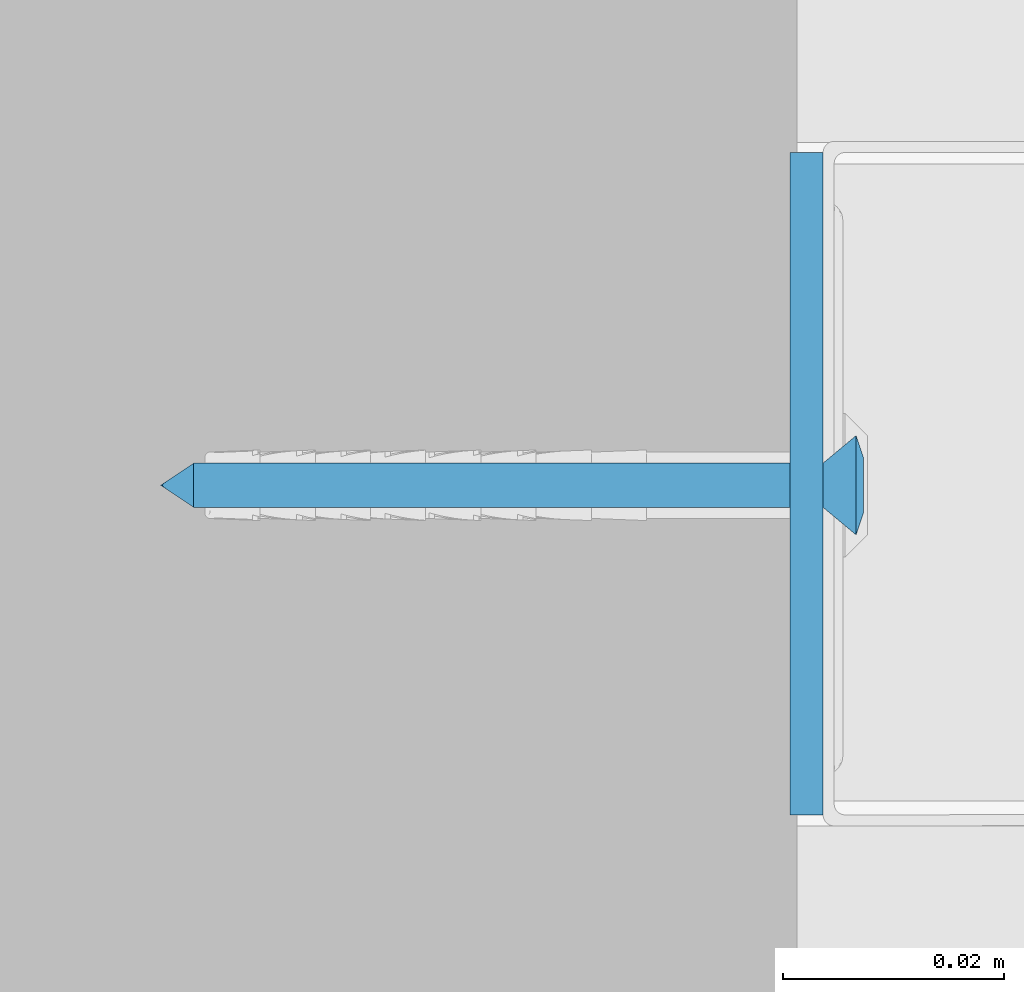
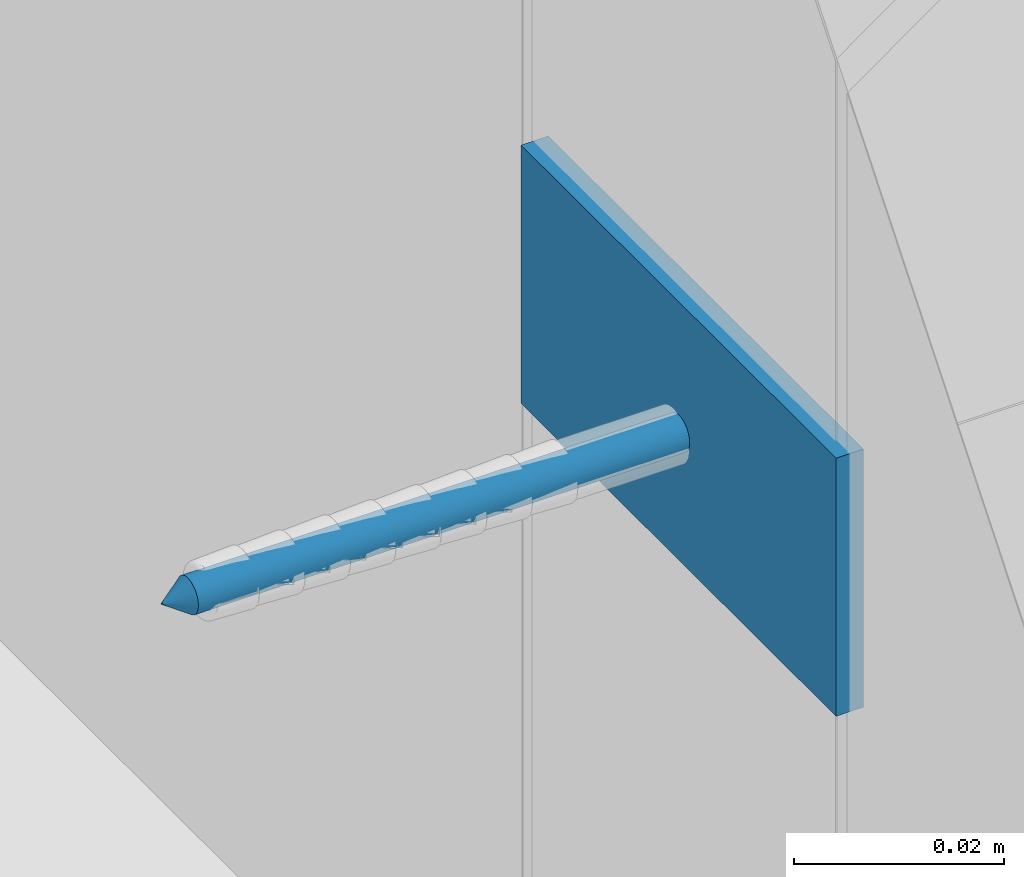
# One storey, part 56 of 62: 2 walls.
"""IFC2X3 building model written with IfcOpenShell, lengths in millimetres."""

import ifcopenshell
import ifcopenshell.guid

model = None  # the IFC model being written
_history = None  # IfcOwnerHistory: only IFC2X3 demands one
_inside = {}  # id of a spatial element -> (the spatial element, [elements in it])
_under = {}  # id of a project, library or spatial element -> (it, [spatial elements below it])
_declared = {}  # id of a project -> (the project, [libraries it declares])
_typed = {}  # id of a type object -> (the type object, [elements of that type])
_made_of = {}  # id of a material, layer set ... -> (it, [elements and type objects made of it])


def new_model(schema):
    """Start an empty IFC model of exactly this schema.

    Asked for "IFC4X3", IfcOpenShell would pick the latest addendum, in which some entities
    have other attributes; the version numbers below select the first issue.
    IFC2X3 requires an IfcOwnerHistory on every rooted entity: one is made here for all.
    """
    global model, _history
    if schema == "IFC4X3":
        model = ifcopenshell.file(schema_version=(4, 3, 0, 0))
    else:
        model = ifcopenshell.file(schema=schema)
    _inside.clear()
    _under.clear()
    _declared.clear()
    _typed.clear()
    _made_of.clear()
    _history = None
    if model.schema == "IFC2X3":
        org = make("IfcOrganization", Name="unknown")
        user = make(
            "IfcPersonAndOrganization",
            ThePerson=make("IfcPerson", FamilyName="unknown"),
            TheOrganization=org,
        )
        app = make(
            "IfcApplication",
            ApplicationDeveloper=org,
            Version="unknown",
            ApplicationFullName="unknown",
            ApplicationIdentifier="unknown",
        )
        _history = make(
            "IfcOwnerHistory",
            OwningUser=user,
            OwningApplication=app,
            ChangeAction="ADDED",
            CreationDate=0,
        )
    return model


def make(cls, **values):
    """One entity of the class cls with the attributes given. An attribute that is None is left unset."""
    return model.create_entity(
        cls, **{name: value for name, value in values.items() if value is not None}
    )


def rooted(cls, **values):
    """An entity with a GlobalId (a new one), such as an element, a storey or a relation."""
    return make(cls, GlobalId=ifcopenshell.guid.new(), OwnerHistory=_history, **values)


def si_unit(unit_type, name, prefix=None):
    """IfcSIUnit, for example si_unit("LENGTHUNIT", "METRE", prefix="MILLI")."""
    return make("IfcSIUnit", UnitType=unit_type, Prefix=prefix, Name=name)


def assignment(units):
    """IfcUnitAssignment: the units of a project."""
    return None if units is None else make("IfcUnitAssignment", Units=units)


def point(xyz):
    """IfcCartesianPoint."""
    return None if xyz is None else make("IfcCartesianPoint", Coordinates=xyz)


def direction(xyz):
    """IfcDirection."""
    return None if xyz is None else make("IfcDirection", DirectionRatios=xyz)


def frame(location, z_axis=None, x_axis=None):
    """IfcAxis2Placement3D, a coordinate frame: its origin and axes. An axis left out is left unset."""
    return make(
        "IfcAxis2Placement3D",
        Location=point(location),
        Axis=direction(z_axis),
        RefDirection=direction(x_axis),
    )


def origin_with_axes():
    """The frame at (0, 0, 0) with the z axis (0, 0, 1) and the x axis (1, 0, 0) written out."""
    return frame((0.0, 0.0, 0.0), z_axis=(0.0, 0.0, 1.0), x_axis=(1.0, 0.0, 0.0))


def place(relative_to, where):
    """IfcLocalPlacement: puts the frame where relative to a parent placement (None: the world)."""
    return make(
        "IfcLocalPlacement", PlacementRelTo=relative_to, RelativePlacement=where
    )


def context(
    kind, dimensions, precision=None, world=None, true_north=None, identifier=None
):
    """IfcGeometricRepresentationContext, for example the 3D "Model" context."""
    return make(
        "IfcGeometricRepresentationContext",
        ContextIdentifier=identifier,
        ContextType=kind,
        CoordinateSpaceDimension=dimensions,
        Precision=precision,
        WorldCoordinateSystem=world,
        TrueNorth=true_north,
    )


def subcontext(parent, identifier, kind, view, scale=None):
    """IfcGeometricRepresentationSubContext, for example "Body" below "Model"."""
    return make(
        "IfcGeometricRepresentationSubContext",
        ContextIdentifier=identifier,
        ContextType=kind,
        ParentContext=parent,
        TargetScale=scale,
        TargetView=view,
    )


def project(units=None, contexts=None):
    """IfcProject with its units and contexts."""
    return rooted(
        "IfcProject",
        Name="project",
        RepresentationContexts=contexts,
        UnitsInContext=assignment(units),
    )


def spatial(cls, under=None, at=None, **own):
    """A site, building, storey or space (cls), placed at a placement, below another one or the project."""
    s = rooted(cls, ObjectPlacement=at, **own)
    if under is not None:
        _under.setdefault(under.id(), (under, []))[1].append(s)
    return s


def faces_of(points, faces, orient=None, outer=None):
    """IfcFace entities. A face is a list of loops; a loop is a list of indices into points, from 0.

    orient and outer hold one flag for each loop. By default every Orientation is true, the
    first loop of a face is its IfcFaceOuterBound and the others are IfcFaceBound.
    """
    made = []
    for i, loops in enumerate(faces):
        bounds = []
        for j, loop in enumerate(loops):
            is_outer = j == 0 if outer is None else outer[i][j]
            bounds.append(
                make(
                    "IfcFaceOuterBound" if is_outer else "IfcFaceBound",
                    Bound=make("IfcPolyLoop", Polygon=[points[k] for k in loop]),
                    Orientation=True if orient is None else orient[i][j],
                )
            )
        made.append(make("IfcFace", Bounds=bounds))
    return made


def faceted_brep(points, faces, orient=None, outer=None, voids=None):
    """IfcFacetedBrep: a solid bounded by flat faces; with voids (closed shells), ...WithVoids."""
    shared = [point(p) for p in points]
    hull = make("IfcClosedShell", CfsFaces=faces_of(shared, faces, orient, outer))
    if voids is None:
        return make("IfcFacetedBrep", Outer=hull)
    return make(
        "IfcFacetedBrepWithVoids",
        Outer=hull,
        Voids=[
            make(cls, CfsFaces=faces_of(shared, fs, o, b)) for cls, fs, o, b in voids
        ],
    )


def shape(context_of_items, identifier, shape_type, items):
    """IfcShapeRepresentation: the items that make up one representation, for example the "Body"."""
    return make(
        "IfcShapeRepresentation",
        ContextOfItems=context_of_items,
        RepresentationIdentifier=identifier,
        RepresentationType=shape_type,
        Items=items,
    )


def material(Name=None, Category=None):
    """IfcMaterial."""
    return make("IfcMaterial", Name=Name, Category=Category)


def made_of(thing, what):
    """Note that an element or type object is made of a material, layer set ...; save() writes the relation."""
    if what is not None:
        _made_of.setdefault(what.id(), (what, []))[1].append(thing)
    return thing


def type_object(cls, material=None, **own):
    """A type object (cls), such as IfcWallType, which elements share."""
    return made_of(rooted(cls, **own), material)


def element(
    cls,
    number,
    at=None,
    inside=None,
    cuts=None,
    type_object=None,
    material=None,
    context=None,
    identifier="Body",
    shape_type=None,
    held_by="IfcProductDefinitionShape",
    body=None,
    shapes=None,
    **own,
):
    """One element of the class cls, such as IfcWall. Its Tag is "e" and its number.

    at: its placement. inside: the storey or other place that contains it. cuts: it is an
    opening in that element (IfcRelVoidsElement). A single representation is given by context,
    identifier, shape_type and body (its items); several are given by shapes. held_by: the class
    of the entity that holds the representations. save() writes the other relations.
    """
    e = rooted(cls, Tag="e%d" % number, ObjectPlacement=at, **own)
    if body is not None:
        shapes = [shape(context, identifier, shape_type, body)]
    if shapes is not None:
        e.Representation = make(held_by, Representations=shapes)
    if inside is not None:
        _inside.setdefault(inside.id(), (inside, []))[1].append(e)
    if cuts is not None:
        rooted(
            "IfcRelVoidsElement", RelatingBuildingElement=cuts, RelatedOpeningElement=e
        )
    if type_object is not None:
        _typed.setdefault(type_object.id(), (type_object, []))[1].append(e)
    return made_of(e, material)


def aggregate(whole, parts):
    """IfcRelAggregates: a whole, such as a stair, and the parts it consists of."""
    return rooted("IfcRelAggregates", RelatingObject=whole, RelatedObjects=parts)


def save(model, path):
    """Write the relations noted so far, then the file.

    IfcRelAggregates (storeys below a building ...), IfcRelContainedInSpatialStructure (elements
    in a storey), IfcRelDefinesByType, IfcRelAssociatesMaterial and IfcRelDeclares: one each for
    every whole, place, type object, material and project.
    """
    for whole, parts in _under.values():
        aggregate(whole, parts)
    for where, things in _inside.values():
        rooted(
            "IfcRelContainedInSpatialStructure",
            RelatedElements=things,
            RelatingStructure=where,
        )
    for kind, things in _typed.values():
        rooted("IfcRelDefinesByType", RelatedObjects=things, RelatingType=kind)
    for what, things in _made_of.values():
        rooted("IfcRelAssociatesMaterial", RelatedObjects=things, RelatingMaterial=what)
    for by, libraries in _declared.values():
        rooted("IfcRelDeclares", RelatingContext=by, RelatedDefinitions=libraries)
    model.write(path)


model = new_model("IFC2X3")

# Units and contexts
model_context = context("Model", 3, world=origin_with_axes())
body_context = subcontext(model_context, "Body", "Model", "MODEL_VIEW")
ifc_project = project(units=[si_unit("LENGTHUNIT", "METRE", prefix="MILLI"), si_unit("AREAUNIT", "SQUARE_METRE"), si_unit("VOLUMEUNIT", "CUBIC_METRE")], contexts=[model_context])

# Site, building, storey
site_placement = place(None, frame((2152.14102611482, -2015.0250894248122, 57.61556563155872), z_axis=(0.0, 0.0, 1.0), x_axis=(-1.1102230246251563e-16, 1.0, 0.0)))
site = spatial("IfcSite", under=ifc_project, at=site_placement, Name="Default Site", CompositionType="ELEMENT")
building_placement = place(site_placement, origin_with_axes())
building = spatial("IfcBuilding", under=site, at=building_placement, Name="Default Building", CompositionType="ELEMENT")
storey_placement = place(building_placement, origin_with_axes())
storey = spatial("IfcBuildingStorey", under=building, at=storey_placement, Name="Default Building Storey", CompositionType="ELEMENT", Elevation=57.61556563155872)

# Walls
ifc_material = material(Name="Default")
wall_type_1 = type_object("IfcWallType", Name="Kołek rozporowy min. fi 6#35", PredefinedType="NOTDEFINED")
wall_1_placement = place(storey_placement, frame((6891.176283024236, 2016.3286110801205, 1539.671890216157), z_axis=(-6.858158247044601e-13, -1.0, 7.64238051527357e-14), x_axis=(-1.6476028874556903e-11, 7.642380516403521e-14, 1.0)))
element("IfcWall", 1, at=wall_1_placement, inside=storey, type_object=wall_type_1, material=ifc_material, Name="Kołek rozporowy min. fi 6", context=body_context, shape_type="Brep", body=[
    faceted_brep([(-1438.3141994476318, 3453.2833099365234, -0.46425670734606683), (-1435.8141422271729, 3453.2833099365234, -3.464256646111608), (-1435.7895851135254, 3452.970266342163, -3.464256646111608), (-1438.2587671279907, 3452.579259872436, -0.46425670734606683), (-1435.7162714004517, 3452.6650905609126, -3.464256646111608), (-1438.093900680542, 3451.892614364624, -0.46425670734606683), (-1435.5961084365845, 3452.3751735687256, -3.464256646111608), (-1437.8236532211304, 3451.240301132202, -0.46425670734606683), (-1435.4321956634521, 3452.107667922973, -3.464256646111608), (-1437.4547004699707, 3450.6382942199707, -0.46425670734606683), (-1435.22834777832, 3451.8690109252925, -3.464256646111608), (-1436.9961023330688, 3450.101137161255, -0.46425670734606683), (-1434.9896907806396, 3451.665163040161, -3.464256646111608), (-1436.4591836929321, 3449.642658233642, -0.46425670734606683), (-1434.7221851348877, 3451.501131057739, -3.464256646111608), (-1435.8570575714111, 3449.2735862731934, -0.46425670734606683), (-1434.4321489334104, 3451.381206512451, -3.464256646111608), (-1435.2047443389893, 3449.0034580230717, -0.46425670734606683), (-1434.1269731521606, 3451.307773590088, -3.464256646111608), (-1434.5180988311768, 3448.838710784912, -0.46425670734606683), (-1433.8141679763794, 3451.28321647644, -3.464256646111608), (-1433.8141679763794, 3448.7831592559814, -0.46425670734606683), (-1433.5012435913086, 3451.307773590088, -3.464256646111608), (-1433.110237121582, 3448.838710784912, -0.46425670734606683), (-1433.1960678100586, 3451.381206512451, -3.464256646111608), (-1432.4235916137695, 3449.0034580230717, -0.46425670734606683), (-1432.9061508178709, 3451.501131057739, -3.464256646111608), (-1431.771159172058, 3449.2735862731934, -0.46425670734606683), (-1432.6385259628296, 3451.665163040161, -3.464256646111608), (-1431.1691522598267, 3449.642658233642, -0.46425670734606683), (-1432.3999881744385, 3451.8690109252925, -3.464256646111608), (-1430.6321144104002, 3450.101137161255, -0.46425670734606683), (-1432.1961402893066, 3452.107667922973, -3.464256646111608), (-1430.1735162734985, 3450.6382942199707, -0.46425670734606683), (-1432.0321083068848, 3452.3751735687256, -3.464256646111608), (-1429.8045635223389, 3451.240301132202, -0.46425670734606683), (-1431.9120645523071, 3452.6650905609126, -3.464256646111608), (-1429.5344352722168, 3451.892614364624, -0.46425670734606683), (-1431.8387508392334, 3453.5961151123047, -3.464256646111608), (-1429.369568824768, 3453.9871215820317, -0.46425670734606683), (-1429.314136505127, 3453.2833099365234, -0.46425670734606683), (-1431.814193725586, 3453.2833099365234, -3.464256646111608), (-1429.369568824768, 3452.579259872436, -0.46425670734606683), (-1431.8387508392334, 3452.970266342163, -3.464256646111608), (-1431.9120645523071, 3453.9012908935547, -3.464256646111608), (-1429.5344352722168, 3454.6737670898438, -0.46425670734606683), (-1432.0321083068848, 3454.191207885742, -3.464256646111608), (-1429.8045635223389, 3455.3260803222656, -0.46425670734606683), (-1432.1961402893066, 3454.458713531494, -3.464256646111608), (-1430.1735162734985, 3455.9283256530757, -0.46425670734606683), (-1432.3999881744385, 3454.6973705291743, -3.464256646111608), (-1430.6321144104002, 3456.465244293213, -0.46425670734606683), (-1432.6385259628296, 3454.9012184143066, -3.464256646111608), (-1431.1691522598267, 3456.923723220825, -0.46425670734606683), (-1432.9061508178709, 3455.065250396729, -3.464256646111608), (-1431.771159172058, 3457.2927951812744, -0.46425670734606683), (-1433.1960678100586, 3455.1854133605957, -3.464256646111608), (-1432.4235916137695, 3457.562923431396, -0.46425670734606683), (-1433.5012435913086, 3455.25860786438, -3.464256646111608), (-1433.110237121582, 3457.7279090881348, -0.46425670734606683), (-1433.8141679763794, 3455.283164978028, -3.464256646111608), (-1433.8141679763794, 3457.7832221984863, -0.46425670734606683), (-1434.3430995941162, 3457.7519893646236, -0.46425670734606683), (-1434.1269731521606, 3455.25860786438, -3.464256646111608), (-1434.4321489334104, 3455.1854133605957, -3.464256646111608), (-1434.8646402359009, 3457.6590061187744, -0.46425670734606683), (-1435.3716373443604, 3457.504987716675, -0.46425670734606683), (-1434.7221851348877, 3455.065250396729, -3.464256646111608), (-1435.8570575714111, 3457.2927951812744, -0.46425670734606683), (-1434.9896907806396, 3454.9012184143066, -3.464256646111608), (-1435.22834777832, 3454.6973705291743, -3.464256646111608), (-1436.3142251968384, 3457.024812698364, -0.46425670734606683), (-1436.7367029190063, 3456.705093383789, -0.46425670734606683), (-1437.118649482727, 3456.337928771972, -0.46425670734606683), (-1437.4547004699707, 3455.9283256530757, -0.46425670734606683), (-1435.4321956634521, 3454.458713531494, -3.464256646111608), (-1435.5961084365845, 3454.191207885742, -3.464256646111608), (-1437.8236532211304, 3455.3260803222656, -0.46425670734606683), (-1435.7162714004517, 3453.9012908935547, -3.464256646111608), (-1438.093900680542, 3454.6737670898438, -0.46425670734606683), (-1435.7895851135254, 3453.5961151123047, -3.464256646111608), (-1438.2587671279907, 3453.9871215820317, -0.46425670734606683), (-1434.2052936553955, 3455.752372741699, 0.20073754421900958), (-1433.8141679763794, 3455.7831287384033, 0.20073754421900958), (-1434.5866441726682, 3455.6608200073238, 0.20073754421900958), (-1434.9491596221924, 3455.510854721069, 0.20073754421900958), (-1435.2836608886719, 3455.305814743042, 0.20073754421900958), (-1435.581922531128, 3455.0509452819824, 0.20073754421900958), (-1435.836672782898, 3454.7526836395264, 0.20073754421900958), (-1436.0417127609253, 3454.418182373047, 0.20073754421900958), (-1436.1917972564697, 3454.0557861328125, 0.20073754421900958), (-1436.2833499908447, 3453.6743164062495, 0.20073754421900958), (-1436.3141059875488, 3453.2833099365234, 0.20073754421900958), (-1436.2833499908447, 3452.8920650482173, 0.20073754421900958), (-1436.1917972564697, 3452.5105953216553, 0.20073754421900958), (-1436.0417127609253, 3452.148199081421, 0.20073754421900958), (-1435.836672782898, 3451.8136978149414, 0.20073754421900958), (-1435.581922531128, 3451.5154361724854, 0.20073754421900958), (-1435.2836608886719, 3451.260566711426, 0.20073754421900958), (-1434.9491596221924, 3451.0557651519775, 0.20073754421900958), (-1434.5866441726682, 3450.905561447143, 0.20073754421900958), (-1433.4230422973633, 3450.8140087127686, 0.20073754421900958), (-1433.8141679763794, 3450.7832527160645, 0.20073754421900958), (-1434.2052936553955, 3450.8140087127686, 0.20073754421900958), (-1433.0415725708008, 3450.905561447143, 0.20073754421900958), (-1432.6791763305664, 3451.0557651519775, 0.20073754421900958), (-1432.344675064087, 3451.260566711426, 0.20073754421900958), (-1432.0464134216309, 3451.5154361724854, 0.20073754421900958), (-1431.7916631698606, 3451.8136978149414, 0.20073754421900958), (-1431.5866231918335, 3452.148199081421, 0.20073754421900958), (-1431.436538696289, 3452.5105953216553, 0.20073754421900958), (-1431.344985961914, 3452.8920650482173, 0.20073754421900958), (-1431.3141107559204, 3453.2833099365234, 0.20073754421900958), (-1431.344985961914, 3453.6743164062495, 0.20073754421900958), (-1431.436538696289, 3454.0557861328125, 0.20073754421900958), (-1431.5866231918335, 3454.418182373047, 0.20073754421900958), (-1431.7916631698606, 3454.7526836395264, 0.20073754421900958), (-1432.0464134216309, 3455.0509452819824, 0.20073754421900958), (-1432.344675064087, 3455.305814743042, 0.20073754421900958), (-1432.6791763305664, 3455.510854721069, 0.20073754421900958), (-1433.0415725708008, 3455.6608200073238, 0.20073754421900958), (-1433.4230422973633, 3455.752372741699, 0.20073754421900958), (-1433.8141679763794, 3453.2833099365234, -63.46425414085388), (-1435.7895851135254, 3452.970266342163, -60.464255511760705), (-1435.8141422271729, 3453.2833099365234, -60.464255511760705), (-1435.7162714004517, 3452.6650905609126, -60.464255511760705), (-1435.5961084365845, 3452.3751735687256, -60.464255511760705), (-1435.4321956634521, 3452.107667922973, -60.464255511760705), (-1435.22834777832, 3451.8690109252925, -60.464255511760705), (-1434.9896907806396, 3451.665163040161, -60.464255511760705), (-1434.7221851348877, 3451.501131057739, -60.464255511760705), (-1434.4321489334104, 3451.381206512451, -60.464255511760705), (-1434.1269731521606, 3451.307773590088, -60.464255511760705), (-1433.8141679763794, 3451.28321647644, -60.464255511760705), (-1433.5012435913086, 3451.307773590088, -60.464255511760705), (-1433.1960678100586, 3451.381206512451, -60.464255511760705), (-1432.9061508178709, 3451.501131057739, -60.464255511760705), (-1432.6385259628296, 3451.665163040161, -60.464255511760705), (-1432.3999881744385, 3451.8690109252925, -60.464255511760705), (-1432.1961402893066, 3452.107667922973, -60.464255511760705), (-1432.0321083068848, 3452.3751735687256, -60.464255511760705), (-1431.9120645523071, 3452.6650905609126, -60.464255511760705), (-1431.8387508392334, 3452.970266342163, -60.464255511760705), (-1431.814193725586, 3453.2833099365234, -60.464255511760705), (-1431.8387508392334, 3453.5961151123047, -60.464255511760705), (-1431.9120645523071, 3453.9012908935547, -60.464255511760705), (-1432.0321083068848, 3454.191207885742, -60.464255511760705), (-1432.1961402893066, 3454.458713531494, -60.464255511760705), (-1432.3999881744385, 3454.6973705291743, -60.464255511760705), (-1432.6385259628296, 3454.9012184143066, -60.464255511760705), (-1432.9061508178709, 3455.065250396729, -60.464255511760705), (-1433.1960678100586, 3455.1854133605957, -60.464255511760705), (-1433.5012435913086, 3455.25860786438, -60.464255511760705), (-1433.8141679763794, 3455.283164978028, -60.464255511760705), (-1434.1269731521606, 3455.25860786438, -60.464255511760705), (-1434.4321489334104, 3455.1854133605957, -60.464255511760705), (-1434.7221851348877, 3455.065250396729, -60.464255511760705), (-1434.9896907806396, 3454.9012184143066, -60.464255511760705), (-1435.22834777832, 3454.6973705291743, -60.464255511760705), (-1435.4321956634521, 3454.458713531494, -60.464255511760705), (-1435.5961084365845, 3454.191207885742, -60.464255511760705), (-1435.7162714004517, 3453.9012908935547, -60.464255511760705), (-1435.7895851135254, 3453.5961151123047, -60.464255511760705), (-1436.0417127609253, 3454.418182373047, 0.049999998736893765), (-1436.1917972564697, 3454.0557861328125, 0.049999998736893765), (-1436.2833499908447, 3453.6743164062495, 0.049999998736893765), (-1436.3141059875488, 3453.2833099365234, 0.049999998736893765), (-1436.2833499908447, 3452.8920650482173, 0.049999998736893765), (-1436.1917972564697, 3452.5105953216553, 0.049999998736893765), (-1436.0417127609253, 3452.148199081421, 0.049999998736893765), (-1435.836672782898, 3451.8136978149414, 0.049999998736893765), (-1435.581922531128, 3451.5154361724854, 0.049999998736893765), (-1435.2836608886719, 3451.260566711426, 0.049999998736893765), (-1434.9491596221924, 3451.0557651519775, 0.049999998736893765), (-1434.5866441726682, 3450.905561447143, 0.049999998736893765), (-1434.2052936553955, 3450.8140087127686, 0.049999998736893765), (-1433.8141679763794, 3450.7832527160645, 0.049999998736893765), (-1433.4230422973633, 3450.8140087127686, 0.049999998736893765), (-1433.0415725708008, 3450.905561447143, 0.049999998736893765), (-1432.6791763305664, 3451.0557651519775, 0.049999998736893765), (-1432.344675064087, 3451.260566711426, 0.049999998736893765), (-1432.0464134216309, 3451.5154361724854, 0.049999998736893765), (-1431.7916631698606, 3451.8136978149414, 0.049999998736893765), (-1431.5866231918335, 3452.148199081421, 0.049999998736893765), (-1431.436538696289, 3452.5105953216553, 0.049999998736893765), (-1431.344985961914, 3452.8920650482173, 0.049999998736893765), (-1431.3141107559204, 3453.2833099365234, 0.049999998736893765), (-1431.344985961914, 3453.6743164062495, 0.049999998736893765), (-1431.436538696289, 3454.0557861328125, 0.049999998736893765), (-1431.5866231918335, 3454.418182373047, 0.049999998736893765), (-1431.7916631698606, 3454.7526836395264, 0.049999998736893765), (-1432.0464134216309, 3455.0509452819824, 0.049999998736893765), (-1432.344675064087, 3455.305814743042, 0.049999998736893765), (-1432.6791763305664, 3455.510854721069, 0.049999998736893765), (-1433.0415725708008, 3455.6608200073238, 0.049999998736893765), (-1433.4230422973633, 3455.752372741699, 0.049999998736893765), (-1433.8141679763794, 3455.7831287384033, 0.049999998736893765), (-1434.2052936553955, 3455.752372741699, 0.049999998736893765), (-1434.5866441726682, 3455.6608200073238, 0.049999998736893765), (-1434.9491596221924, 3455.510854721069, 0.049999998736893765), (-1435.2836608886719, 3455.305814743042, 0.049999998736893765), (-1435.581922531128, 3455.0509452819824, 0.049999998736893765), (-1435.836672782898, 3454.7526836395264, 0.049999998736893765), (-1434.3141317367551, 3452.7831077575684, 0.049999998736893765), (-1435.8141422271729, 3452.7831077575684, 0.049999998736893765), (-1435.8141422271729, 3453.7832736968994, 0.049999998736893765), (-1434.3141317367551, 3453.7832736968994, 0.049999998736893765), (-1434.3141317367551, 3455.283164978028, 0.049999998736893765), (-1433.3142042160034, 3455.283164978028, 0.049999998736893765), (-1433.3142042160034, 3453.7832736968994, 0.049999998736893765), (-1431.814193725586, 3453.7832736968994, 0.049999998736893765), (-1431.814193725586, 3452.7831077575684, 0.049999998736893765), (-1433.3142042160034, 3452.7831077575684, 0.049999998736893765), (-1433.3142042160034, 3451.28321647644, 0.049999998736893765), (-1434.3141317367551, 3451.28321647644, 0.049999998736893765), (-1434.3141317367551, 3452.7831077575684, -1.799262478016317), (-1434.3141317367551, 3451.28321647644, -1.799262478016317), (-1433.3142042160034, 3451.28321647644, -1.799262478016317), (-1433.3142042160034, 3452.7831077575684, -1.799262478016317), (-1431.814193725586, 3452.7831077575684, -1.799262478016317), (-1431.814193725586, 3453.7832736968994, -1.799262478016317), (-1433.3142042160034, 3453.7832736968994, -1.799262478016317), (-1433.3142042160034, 3455.283164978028, -1.799262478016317), (-1434.3141317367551, 3455.283164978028, -1.799262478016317), (-1434.3141317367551, 3453.7832736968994, -1.799262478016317), (-1435.8141422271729, 3453.7832736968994, -1.799262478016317), (-1435.8141422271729, 3452.7831077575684, -1.799262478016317)], [[[0, 1, 2, 3]], [[4, 5, 3, 2]], [[6, 7, 5, 4]], [[7, 6, 8, 9]], [[10, 11, 9, 8]], [[11, 10, 12, 13]], [[14, 15, 13, 12]], [[16, 17, 15, 14]], [[17, 16, 18, 19]], [[20, 21, 19, 18]], [[21, 20, 22, 23]], [[24, 25, 23, 22]], [[26, 27, 25, 24]], [[27, 26, 28, 29]], [[30, 31, 29, 28]], [[31, 30, 32, 33]], [[34, 35, 33, 32]], [[36, 37, 35, 34]], [[38, 39, 40, 41]], [[41, 40, 42, 43]], [[37, 36, 43, 42]], [[44, 45, 39, 38]], [[46, 47, 45, 44]], [[47, 46, 48, 49]], [[50, 51, 49, 48]], [[51, 50, 52, 53]], [[54, 55, 53, 52]], [[56, 57, 55, 54]], [[57, 56, 58, 59]], [[60, 61, 59, 58]], [[62, 61, 63]], [[61, 60, 63]], [[63, 64, 62]], [[64, 65, 62]], [[66, 65, 64]], [[64, 67, 66]], [[67, 68, 66]], [[69, 70, 71]], [[70, 72, 71]], [[71, 68, 69]], [[68, 67, 69]], [[70, 73, 72]], [[74, 73, 75]], [[73, 70, 75]], [[76, 77, 74, 75]], [[78, 79, 77, 76]], [[79, 78, 80, 81]], [[1, 0, 81, 80]], [[82, 83, 62]], [[83, 61, 62]], [[62, 65, 82]], [[65, 84, 82]], [[66, 68, 84]], [[68, 85, 84]], [[84, 65, 66]], [[86, 85, 71]], [[85, 68, 71]], [[72, 73, 87]], [[87, 86, 72]], [[86, 71, 72]], [[88, 87, 74]], [[87, 73, 74]], [[77, 89, 88, 74]], [[79, 90, 89, 77]], [[90, 79, 81, 91]], [[0, 92, 91, 81]], [[92, 0, 3, 93]], [[5, 94, 93, 3]], [[7, 95, 94, 5]], [[95, 7, 9, 96]], [[11, 97, 96, 9]], [[97, 11, 13, 98]], [[15, 99, 98, 13]], [[17, 100, 99, 15]], [[23, 101, 102, 21]], [[21, 102, 103, 19]], [[100, 17, 19, 103]], [[25, 104, 101, 23]], [[27, 105, 104, 25]], [[105, 27, 29, 106]], [[31, 107, 106, 29]], [[107, 31, 33, 108]], [[35, 109, 108, 33]], [[37, 110, 109, 35]], [[110, 37, 42, 111]], [[40, 112, 111, 42]], [[112, 40, 39, 113]], [[45, 114, 113, 39]], [[47, 115, 114, 45]], [[115, 47, 49, 116]], [[51, 117, 116, 49]], [[117, 51, 53, 118]], [[55, 119, 118, 53]], [[57, 120, 119, 55]], [[120, 57, 59, 121]], [[61, 83, 121, 59]], [[122, 123, 124]], [[122, 125, 123]], [[122, 126, 125]], [[127, 126, 122]], [[122, 128, 127]], [[129, 128, 122]], [[122, 130, 129]], [[122, 131, 130]], [[132, 131, 122]], [[122, 133, 132]], [[134, 133, 122]], [[122, 135, 134]], [[122, 136, 135]], [[137, 136, 122]], [[122, 138, 137]], [[139, 138, 122]], [[122, 140, 139]], [[122, 141, 140]], [[142, 141, 122]], [[122, 143, 142]], [[144, 143, 122]], [[122, 145, 144]], [[122, 146, 145]], [[147, 146, 122]], [[122, 148, 147]], [[149, 148, 122]], [[122, 150, 149]], [[122, 151, 150]], [[152, 151, 122]], [[122, 153, 152]], [[154, 153, 122]], [[122, 155, 154]], [[122, 156, 155]], [[157, 156, 122]], [[122, 158, 157]], [[159, 158, 122]], [[122, 160, 159]], [[122, 161, 160]], [[162, 161, 122]], [[124, 162, 122]], [[1, 124, 123, 2]], [[125, 4, 2, 123]], [[126, 6, 4, 125]], [[6, 126, 127, 8]], [[128, 10, 8, 127]], [[10, 128, 129, 12]], [[130, 14, 12, 129]], [[131, 16, 14, 130]], [[16, 131, 132, 18]], [[133, 20, 18, 132]], [[20, 133, 134, 22]], [[135, 24, 22, 134]], [[136, 26, 24, 135]], [[26, 136, 137, 28]], [[138, 30, 28, 137]], [[30, 138, 139, 32]], [[140, 34, 32, 139]], [[141, 36, 34, 140]], [[144, 38, 41, 143]], [[143, 41, 43, 142]], [[36, 141, 142, 43]], [[145, 44, 38, 144]], [[146, 46, 44, 145]], [[46, 146, 147, 48]], [[148, 50, 48, 147]], [[50, 148, 149, 52]], [[150, 54, 52, 149]], [[151, 56, 54, 150]], [[56, 151, 152, 58]], [[153, 60, 58, 152]], [[60, 153, 154, 63]], [[155, 64, 63, 154]], [[156, 67, 64, 155]], [[67, 156, 157, 69]], [[158, 70, 69, 157]], [[70, 158, 159, 75]], [[160, 76, 75, 159]], [[161, 78, 76, 160]], [[78, 161, 162, 80]], [[124, 1, 80, 162]], [[163, 164, 165, 166, 167, 168, 169, 170, 171, 172, 173, 174, 175, 176, 177, 178, 179, 180, 181, 182, 183, 184, 185, 186, 187, 188, 189, 190, 191, 192, 193, 194, 195, 196, 197, 198, 199, 200, 201, 202], [203, 204, 205, 206, 207, 208, 209, 210, 211, 212, 213, 214]], [[187, 186, 112, 113]], [[113, 114, 188, 187]], [[114, 115, 189, 188]], [[190, 189, 115, 116]], [[116, 117, 191, 190]], [[192, 191, 117, 118]], [[118, 119, 193, 192]], [[119, 120, 194, 193]], [[195, 194, 120, 121]], [[121, 83, 196, 195]], [[197, 196, 83, 82]], [[82, 84, 198, 197]], [[84, 85, 199, 198]], [[200, 199, 85, 86]], [[86, 87, 201, 200]], [[202, 201, 87, 88]], [[88, 89, 163, 202]], [[89, 90, 164, 163]], [[92, 93, 167, 166]], [[91, 92, 166, 165]], [[165, 164, 90, 91]], [[93, 94, 168, 167]], [[94, 95, 169, 168]], [[170, 169, 95, 96]], [[96, 97, 171, 170]], [[172, 171, 97, 98]], [[98, 99, 173, 172]], [[99, 100, 174, 173]], [[175, 174, 100, 103]], [[103, 102, 176, 175]], [[177, 176, 102, 101]], [[101, 104, 178, 177]], [[104, 105, 179, 178]], [[180, 179, 105, 106]], [[106, 107, 181, 180]], [[182, 181, 107, 108]], [[108, 109, 183, 182]], [[109, 110, 184, 183]], [[185, 184, 110, 111]], [[111, 112, 186, 185]], [[215, 216, 217, 218, 219, 220, 221, 222, 223, 224, 225, 226]], [[216, 214, 213, 217]], [[215, 203, 214, 216]], [[226, 204, 203, 215]], [[225, 205, 204, 226]], [[224, 206, 205, 225]], [[223, 207, 206, 224]], [[222, 208, 207, 223]], [[221, 209, 208, 222]], [[220, 210, 209, 221]], [[219, 211, 210, 220]], [[218, 212, 211, 219]], [[217, 213, 212, 218]]]),
])
wall_type_2 = type_object("IfcWallType", Name="Taśma uszczelniająca piankowa RIGIPS szer.30mm#9", PredefinedType="NOTDEFINED")
wall_2_placement = place(storey_placement, frame((3408.037086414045, 2019.778611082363, 120.96024801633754), z_axis=(0.0, 0.0, 1.0), x_axis=(1.0, 0.0, 0.0)))
element("IfcWall", 2, at=wall_2_placement, inside=storey, type_object=wall_type_2, material=ifc_material, Name="Taśma uszczelniająca piankowa RIGIPS szer.30mm", context=body_context, shape_type="Brep", body=[
    faceted_brep([(59.99999865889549, 0.0, 4.511946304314e-12), (0.0, 0.0, 0.0), (1.0828671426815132e-12, -2.2379254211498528e-11, -29.999999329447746), (59.99999865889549, -2.2379254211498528e-11, -29.999999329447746), (0.0, 3.000000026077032, 0.0), (1.0828671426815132e-12, 3.000000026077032, -29.999999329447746), (59.99999865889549, 3.000000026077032, 0.0), (59.99999865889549, 3.000000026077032, -29.999999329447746)], [[[0, 1, 2, 3]], [[1, 4, 5, 2]], [[4, 6, 7, 5]], [[6, 0, 3, 7]], [[7, 3, 2, 5]], [[0, 6, 4, 1]]]),
])

save(model, "model.ifc")
